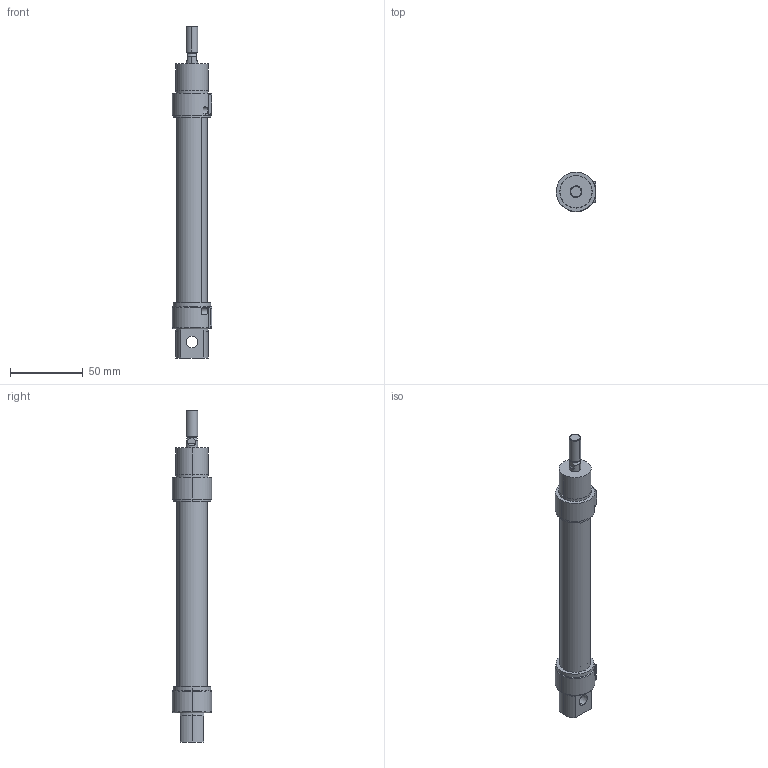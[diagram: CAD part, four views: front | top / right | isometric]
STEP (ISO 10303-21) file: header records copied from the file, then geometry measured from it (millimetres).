
FILE_DESCRIPTION (( 'STEP AP203' ), '1' );
FILE_NAME ('MAC6432S-20x100-CYLINDER.STEP', '2015-08-20T06:47:58', ( 'user' ), ( '' ), 'SwSTEP 2.0', 'SolidWorks 2013', '' );
FILE_SCHEMA (( 'CONFIG_CONTROL_DESIGN' ));
Length unit declared in the file: millimetre
Products named in the file (6): MAC6432S  20x100 M尳; MAC6432S-20x100-CYLINDER; MAC6432S  20 ARKA KAPAK; MAC6432S  20 ORTA PÝSTON; MAC6432S  20 烰 KAPAK; MAC6432S  20x100 BORU
Assembly tree (5 placements, depth 2):
  MAC6432S-20x100-CYLINDER
    MAC6432S  20 ARKA KAPAK
    MAC6432S  20 ORTA PÝSTON
    MAC6432S  20 烰 KAPAK
    MAC6432S  20x100 BORU
    MAC6432S  20x100 M尳
Bounding box: 27 x 27 x 227.5 mm (x, y, z)
Volume: 49199.2 mm3; surface area: 35463.8 mm2
Topology: 5 solids, 5 shells, 208 faces, 478 edges, 305 vertices
Faces by surface type: cylinder 101, plane 74, cone 19, torus 10, bspline 4
Entity records: 6965 total; most frequent: CARTESIAN_POINT 1544, DIRECTION 1067, ORIENTED_EDGE 948, EDGE_CURVE 474, AXIS2_PLACEMENT_3D 444, VERTEX_POINT 305, EDGE_LOOP 247, CIRCLE 233
